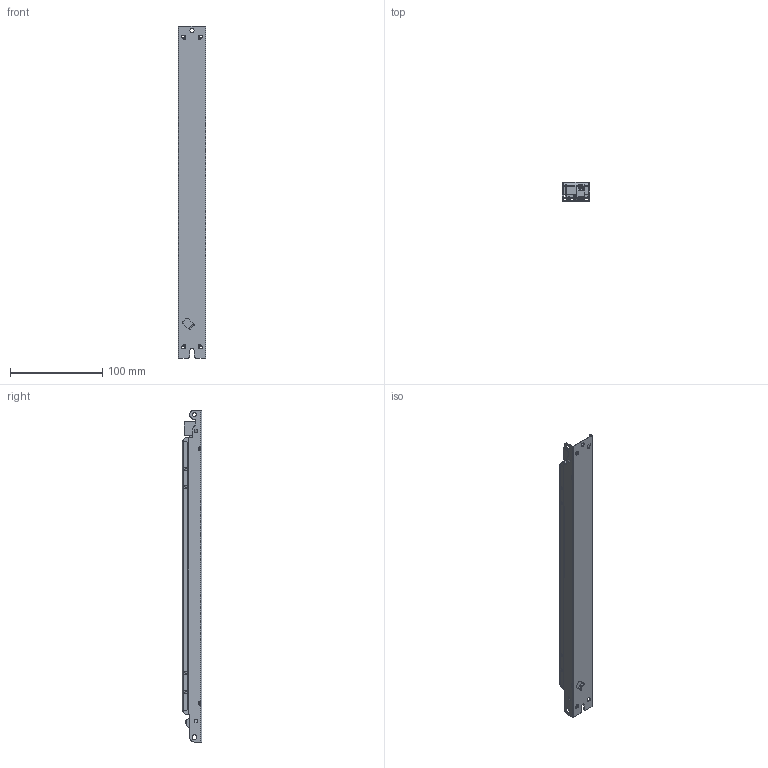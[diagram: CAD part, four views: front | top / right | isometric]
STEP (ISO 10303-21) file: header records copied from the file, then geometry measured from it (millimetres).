
FILE_DESCRIPTION (( 'STEP AP203' ), '1' );
FILE_NAME ('LL165HE-DA-300-1050-IND_3D_yksittäisliittimet.STEP', '2023-10-19T12:19:11', ( '' ), ( '' ), 'SwSTEP 2.0', 'SolidWorks 2022', '' );
FILE_SCHEMA (( 'CONFIG_CONTROL_DESIGN' ));
Length unit declared in the file: millimetre
Products named in the file (1): LL165HE-DA-300-1050-IND_3D_yksittäisliittimet
Bounding box: 30 x 21 x 360 mm (x, y, z)
Volume: 35899.4 mm3; surface area: 95991.3 mm2
Topology: 6 solids, 6 shells, 1042 faces, 2717 edges, 1710 vertices
Faces by surface type: plane 582, cylinder 330, bspline 116, cone 14
Entity records: 37085 total; most frequent: CARTESIAN_POINT 12611, ORIENTED_EDGE 5434, DIRECTION 4521, EDGE_CURVE 2717, LINE 1797, VECTOR 1797, VERTEX_POINT 1710, AXIS2_PLACEMENT_3D 1362
